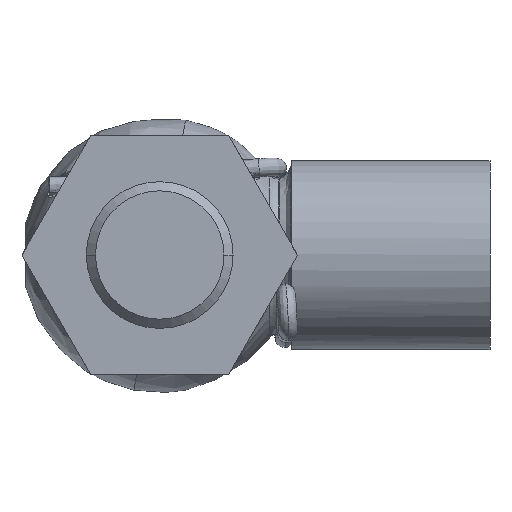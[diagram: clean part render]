
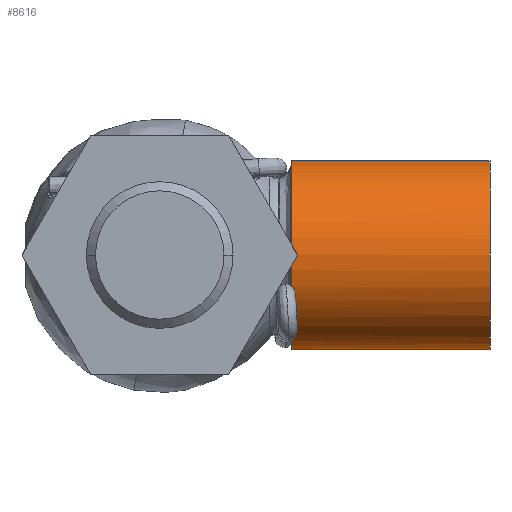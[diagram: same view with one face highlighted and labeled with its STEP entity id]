
A CAD part, front view. The second image highlights one B-rep face of the part: STEP entity #8616.
In plain terms, the highlighted cylindrical face has radius 5.15 mm (diameter 10.3 mm), a partial arc.
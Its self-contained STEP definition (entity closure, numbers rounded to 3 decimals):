
#80 = ORIENTED_EDGE ( 'NONE', *, *, #2113, .T. ) ;
#113 = VERTEX_POINT ( 'NONE', #3418 ) ;
#142 = CARTESIAN_POINT ( 'NONE',  ( 7.203, -4.516, -2.476 ) ) ;
#498 = ORIENTED_EDGE ( 'NONE', *, *, #6270, .T. ) ;
#589 = CARTESIAN_POINT ( 'NONE',  ( 7.203, -3.362, -3.901 ) ) ;
#590 = CIRCLE ( 'NONE', #2180, 5.15 ) ;
#610 = ORIENTED_EDGE ( 'NONE', *, *, #8733, .F. ) ;
#781 = CARTESIAN_POINT ( 'NONE',  ( 7.265, -3.36, -3.903 ) ) ;
#827 = DIRECTION ( 'NONE',  ( -1., 0., 0. ) ) ;
#899 = CARTESIAN_POINT ( 'NONE',  ( 7.203, 0., 0. ) ) ;
#926 = CARTESIAN_POINT ( 'NONE',  ( 7.203, -3.423, -3.848 ) ) ;
#956 = DIRECTION ( 'NONE',  ( -1., 0., 0. ) ) ;
#1320 = CARTESIAN_POINT ( 'NONE',  ( 7.34, -4.642, -2.232 ) ) ;
#1333 = EDGE_CURVE ( 'NONE', #7933, #9615, #8023, .T. ) ;
#1359 = CARTESIAN_POINT ( 'NONE',  ( 7.203, -4.516, -2.476 ) ) ;
#1653 = DIRECTION ( 'NONE',  ( 1., 0., 0. ) ) ;
#1708 = ORIENTED_EDGE ( 'NONE', *, *, #6007, .F. ) ;
#1728 = CARTESIAN_POINT ( 'NONE',  ( 16.117, 0., -5.15 ) ) ;
#1807 = B_SPLINE_CURVE_WITH_KNOTS ( 'NONE', 3,
 ( #926, #4864, #2438, #9408 ),
 .UNSPECIFIED., .F., .F.,
 ( 4, 4 ),
 ( 0., 0. ),
 .UNSPECIFIED. ) ;
#1972 = B_SPLINE_CURVE_WITH_KNOTS ( 'NONE', 3,
 ( #1359, #9741, #9103, #1320, #2066, #5224, #6708, #2130, #2917, #7496 ),
 .UNSPECIFIED., .F., .F.,
 ( 4, 2, 2, 2, 4 ),
 ( 0., 0., 0., 0.001, 0.001 ),
 .UNSPECIFIED. ) ;
#2066 = CARTESIAN_POINT ( 'NONE',  ( 7.359, -4.675, -2.163 ) ) ;
#2107 = AXIS2_PLACEMENT_3D ( 'NONE', #8414, #827, #6205 ) ;
#2113 = EDGE_CURVE ( 'NONE', #3069, #113, #6683, .T. ) ;
#2130 = CARTESIAN_POINT ( 'NONE',  ( 7.304, -4.821, -1.814 ) ) ;
#2180 = AXIS2_PLACEMENT_3D ( 'NONE', #899, #8430, #3817 ) ;
#2190 = CARTESIAN_POINT ( 'NONE',  ( 7.223, -3.361, -3.902 ) ) ;
#2232 = ORIENTED_EDGE ( 'NONE', *, *, #8493, .T. ) ;
#2412 = LINE ( 'NONE', #9571, #3131 ) ;
#2438 = CARTESIAN_POINT ( 'NONE',  ( 7.246, -3.382, -3.884 ) ) ;
#2587 = EDGE_LOOP ( 'NONE', ( #1708, #80, #2232, #498, #610, #4554, #8061, #8386, #4373 ) ) ;
#2853 = VECTOR ( 'NONE', #956, 1000. ) ;
#2862 = EDGE_CURVE ( 'NONE', #5157, #9598, #1807, .T. ) ;
#2917 = CARTESIAN_POINT ( 'NONE',  ( 7.26, -4.844, -1.751 ) ) ;
#3069 = VERTEX_POINT ( 'NONE', #3330 ) ;
#3112 = CARTESIAN_POINT ( 'NONE',  ( 7.203, 0., -5.15 ) ) ;
#3131 = VECTOR ( 'NONE', #6472, 1000. ) ;
#3153 = DIRECTION ( 'NONE',  ( 0., 0., -1. ) ) ;
#3330 = CARTESIAN_POINT ( 'NONE',  ( 18.003, 0., -5.15 ) ) ;
#3418 = CARTESIAN_POINT ( 'NONE',  ( 18.003, 0., 5.15 ) ) ;
#3457 = CIRCLE ( 'NONE', #5437, 5.15 ) ;
#3461 = CARTESIAN_POINT ( 'NONE',  ( 7.203, 0., 5.15 ) ) ;
#3561 = DIRECTION ( 'NONE',  ( 0., 0., -1. ) ) ;
#3581 = LINE ( 'NONE', #1728, #2853 ) ;
#3754 = VERTEX_POINT ( 'NONE', #7932 ) ;
#3817 = DIRECTION ( 'NONE',  ( 0., 0., -1. ) ) ;
#3911 = CARTESIAN_POINT ( 'NONE',  ( 7.203, -3.423, -3.848 ) ) ;
#4006 =( BOUNDED_CURVE ( )  B_SPLINE_CURVE ( 3, ( #589, #2190, #6774, #9836 ),
 .UNSPECIFIED., .F., .F. ) 
 B_SPLINE_CURVE_WITH_KNOTS ( ( 4, 4 ),
 ( 4.071, 4.072 ),
 .UNSPECIFIED. ) 
 CURVE ( )  GEOMETRIC_REPRESENTATION_ITEM ( )  RATIONAL_B_SPLINE_CURVE ( ( 1., 1., 1., 1. ) ) 
 REPRESENTATION_ITEM ( '' )  );
#4373 = ORIENTED_EDGE ( 'NONE', *, *, #1333, .T. ) ;
#4554 = ORIENTED_EDGE ( 'NONE', *, *, #5179, .T. ) ;
#4864 = CARTESIAN_POINT ( 'NONE',  ( 7.226, -3.404, -3.865 ) ) ;
#5157 = VERTEX_POINT ( 'NONE', #3911 ) ;
#5179 = EDGE_CURVE ( 'NONE', #6294, #5157, #590, .T. ) ;
#5224 = CARTESIAN_POINT ( 'NONE',  ( 7.367, -4.737, -2.022 ) ) ;
#5270 = CARTESIAN_POINT ( 'NONE',  ( 7.203, -3.362, -3.901 ) ) ;
#5437 = AXIS2_PLACEMENT_3D ( 'NONE', #5514, #1653, #3153 ) ;
#5514 = CARTESIAN_POINT ( 'NONE',  ( 7.203, 0., 0. ) ) ;
#5929 = DIRECTION ( 'NONE',  ( -1., 0., 0. ) ) ;
#6007 = EDGE_CURVE ( 'NONE', #3069, #9615, #3581, .T. ) ;
#6205 = DIRECTION ( 'NONE',  ( 0., 0., -1. ) ) ;
#6270 = EDGE_CURVE ( 'NONE', #7391, #3754, #3457, .T. ) ;
#6294 = VERTEX_POINT ( 'NONE', #142 ) ;
#6472 = DIRECTION ( 'NONE',  ( -1., 0., 0. ) ) ;
#6683 = CIRCLE ( 'NONE', #2107, 5.15 ) ;
#6708 = CARTESIAN_POINT ( 'NONE',  ( 7.357, -4.768, -1.949 ) ) ;
#6774 = CARTESIAN_POINT ( 'NONE',  ( 7.244, -3.361, -3.902 ) ) ;
#7340 = CYLINDRICAL_SURFACE ( 'NONE', #9613, 5.15 ) ;
#7391 = VERTEX_POINT ( 'NONE', #3461 ) ;
#7496 = CARTESIAN_POINT ( 'NONE',  ( 7.203, -4.861, -1.7 ) ) ;
#7559 = DIRECTION ( 'NONE',  ( 0., 0., 1. ) ) ;
#7574 = FACE_OUTER_BOUND ( 'NONE', #2587, .T. ) ;
#7932 = CARTESIAN_POINT ( 'NONE',  ( 7.203, -4.861, -1.7 ) ) ;
#7933 = VERTEX_POINT ( 'NONE', #5270 ) ;
#8023 = CIRCLE ( 'NONE', #9180, 5.15 ) ;
#8061 = ORIENTED_EDGE ( 'NONE', *, *, #2862, .T. ) ;
#8106 = CARTESIAN_POINT ( 'NONE',  ( 16.117, 0., 0. ) ) ;
#8386 = ORIENTED_EDGE ( 'NONE', *, *, #8677, .F. ) ;
#8414 = CARTESIAN_POINT ( 'NONE',  ( 18.003, 0., 0. ) ) ;
#8430 = DIRECTION ( 'NONE',  ( 1., 0., 0. ) ) ;
#8493 = EDGE_CURVE ( 'NONE', #113, #7391, #2412, .T. ) ;
#8616 = ADVANCED_FACE ( 'NONE', ( #7574 ), #7340, .T. ) ;
#8677 = EDGE_CURVE ( 'NONE', #7933, #9598, #4006, .T. ) ;
#8733 = EDGE_CURVE ( 'NONE', #6294, #3754, #1972, .T. ) ;
#8914 = CARTESIAN_POINT ( 'NONE',  ( 7.203, 0., 0. ) ) ;
#9103 = CARTESIAN_POINT ( 'NONE',  ( 7.284, -4.578, -2.36 ) ) ;
#9180 = AXIS2_PLACEMENT_3D ( 'NONE', #8914, #9676, #3561 ) ;
#9408 = CARTESIAN_POINT ( 'NONE',  ( 7.265, -3.36, -3.903 ) ) ;
#9571 = CARTESIAN_POINT ( 'NONE',  ( 16.117, 0., 5.15 ) ) ;
#9598 = VERTEX_POINT ( 'NONE', #781 ) ;
#9613 = AXIS2_PLACEMENT_3D ( 'NONE', #8106, #5929, #7559 ) ;
#9615 = VERTEX_POINT ( 'NONE', #3112 ) ;
#9676 = DIRECTION ( 'NONE',  ( 1., 0., 0. ) ) ;
#9741 = CARTESIAN_POINT ( 'NONE',  ( 7.246, -4.547, -2.42 ) ) ;
#9836 = CARTESIAN_POINT ( 'NONE',  ( 7.265, -3.36, -3.903 ) ) ;
